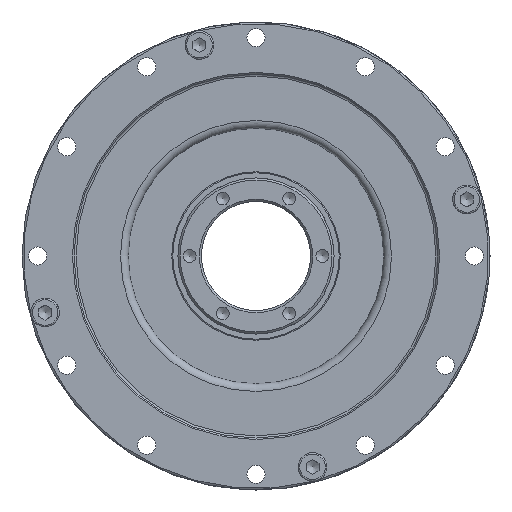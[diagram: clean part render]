
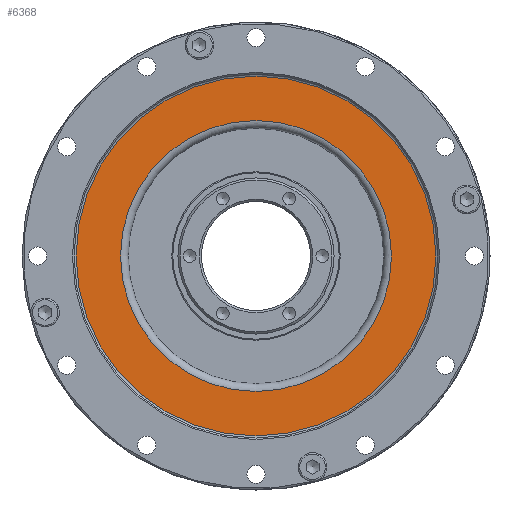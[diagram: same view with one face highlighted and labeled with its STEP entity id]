
A CAD part, left-side view. The second image highlights one B-rep face of the part: STEP entity #6368.
In plain terms, the highlighted planar face has unit normal (-1, 0, 0).
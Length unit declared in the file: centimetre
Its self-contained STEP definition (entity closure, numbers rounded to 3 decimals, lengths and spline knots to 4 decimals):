
#954=FACE_BOUND($,#2051,.T.);
#1391=FACE_OUTER_BOUND($,#2050,.T.);
#2050=EDGE_LOOP($,(#5606));
#2051=EDGE_LOOP($,(#5607));
#2690=CIRCLE($,#7378,3.46);
#2691=CIRCLE($,#7380,2.606);
#3222=VERTEX_POINT($,#11386);
#3223=VERTEX_POINT($,#11389);
#4006=EDGE_CURVE($,#3222,#3222,#2690,.T.);
#4007=EDGE_CURVE($,#3223,#3223,#2691,.T.);
#5606=ORIENTED_EDGE($,*,*,#4006,.F.);
#5607=ORIENTED_EDGE($,*,*,#4007,.T.);
#5934=PLANE($,#7379);
#6368=ADVANCED_FACE($,(#1391,#954),#5934,.T.);
#7378=AXIS2_PLACEMENT_3D($,#11387,#9507,#9508);
#7379=AXIS2_PLACEMENT_3D($,#11388,#9509,#9510);
#7380=AXIS2_PLACEMENT_3D($,#11390,#9511,#9512);
#9507=DIRECTION('center_axis',(1.,0.,0.));
#9508=DIRECTION('ref_axis',(0.,1.,0.));
#9509=DIRECTION('center_axis',(-1.,0.,0.));
#9510=DIRECTION('ref_axis',(0.,-1.,0.));
#9511=DIRECTION('center_axis',(1.,0.,0.));
#9512=DIRECTION('ref_axis',(0.,1.,0.));
#11386=CARTESIAN_POINT('',(-0.0284,3.46,0.));
#11387=CARTESIAN_POINT('Origin',(-0.0284,0.,
0.));
#11388=CARTESIAN_POINT('Origin',(-0.0284,3.033,0.));
#11389=CARTESIAN_POINT('',(-0.0284,2.606,0.));
#11390=CARTESIAN_POINT('Origin',(-0.0284,0.,
0.));
